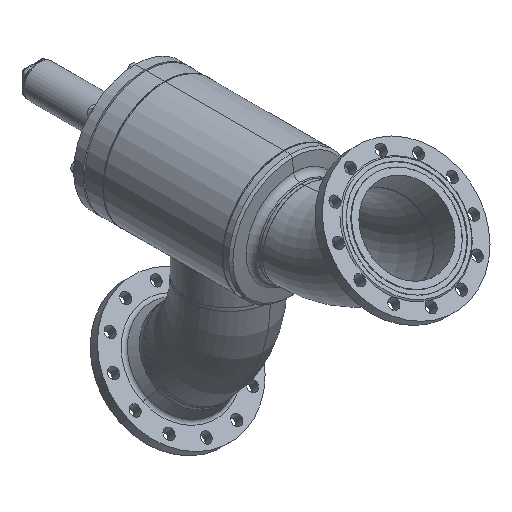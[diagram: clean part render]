
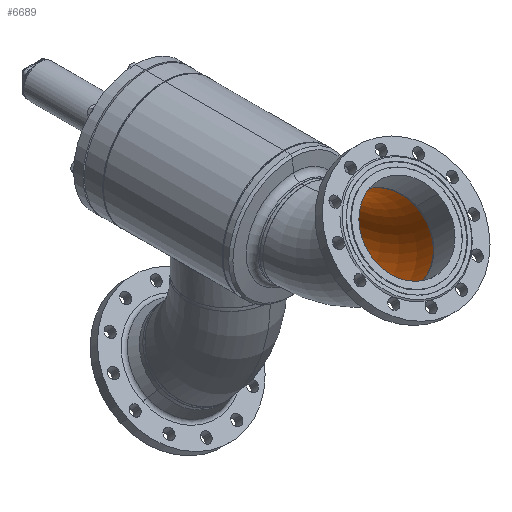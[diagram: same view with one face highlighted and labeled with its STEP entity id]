
A CAD part, isometric view. The second image highlights one B-rep face of the part: STEP entity #6689.
In plain terms, the highlighted toroidal (fillet/blend) face has major radius 305 mm and minor radius 103.25 mm.
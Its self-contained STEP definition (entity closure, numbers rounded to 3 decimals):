
#588 = VERTEX_POINT ( 'NONE', #59993 ) ;
#1597 = EDGE_CURVE ( 'NONE', #588, #72855, #61494, .T. ) ;
#34852 = CARTESIAN_POINT ( 'NONE',  ( 0., 103.25, 0. ) ) ;
#67848 = VERTEX_POINT ( 'NONE', #34852 ) ;
#3267 = ORIENTED_EDGE ( 'NONE', *, *, #1597, .T. ) ;
#68843 = EDGE_CURVE ( 'NONE', #72855, #67848, #36744, .T. ) ;
#36744 = CIRCLE ( 'NONE', #36745, 408.25 ) ;
#36745 = AXIS2_PLACEMENT_3D ( 'NONE', #36746, #36747, #36748 ) ;
#36746 = CARTESIAN_POINT ( 'NONE',  ( 0., -305., 0. ) ) ;
#36747 = DIRECTION ( 'NONE',  ( 0., 0., 1. ) ) ;
#36748 = DIRECTION ( 'NONE',  ( 1., 0., 0. ) ) ;
#70519 = ORIENTED_EDGE ( 'NONE', *, *, #68843, .T. ) ;
#5456 = CARTESIAN_POINT ( 'NONE',  ( 0., -103.25, 0. ) ) ;
#5603 = EDGE_LOOP ( 'NONE', ( #3267, #70519, #65507, #61232 ) ) ;
#6689 = ADVANCED_FACE ( 'NONE', ( #65266 ), #65267, .F. ) ;
#6887 = CIRCLE ( 'NONE', #6888, 103.25 ) ;
#6888 = AXIS2_PLACEMENT_3D ( 'NONE', #6889, #6890, #6891 ) ;
#6889 = CARTESIAN_POINT ( 'NONE',  ( 0., 0., 0. ) ) ;
#6890 = DIRECTION ( 'NONE',  ( 1., 0., 0. ) ) ;
#6891 = DIRECTION ( 'NONE',  ( 0., 0., -1. ) ) ;
#39668 = CARTESIAN_POINT ( 'NONE',  ( 288.676, -16.324, 0. ) ) ;
#39974 = CIRCLE ( 'NONE', #39975, 201.75 ) ;
#39975 = AXIS2_PLACEMENT_3D ( 'NONE', #39976, #39977, #39978 ) ;
#39976 = CARTESIAN_POINT ( 'NONE',  ( 0., -305., 0. ) ) ;
#39977 = DIRECTION ( 'NONE',  ( 0., 0., 1. ) ) ;
#39978 = DIRECTION ( 'NONE',  ( 1., 0., 0. ) ) ;
#72855 = VERTEX_POINT ( 'NONE', #39668 ) ;
#24369 = EDGE_CURVE ( 'NONE', #588, #62827, #39974, .T. ) ;
#59993 = CARTESIAN_POINT ( 'NONE',  ( 142.659, -162.341, 0. ) ) ;
#61232 = ORIENTED_EDGE ( 'NONE', *, *, #24369, .F. ) ;
#61494 = CIRCLE ( 'NONE', #61495, 103.25 ) ;
#61495 = AXIS2_PLACEMENT_3D ( 'NONE', #61496, #61497, #61498 ) ;
#61496 = CARTESIAN_POINT ( 'NONE',  ( 215.668, -89.332, 0. ) ) ;
#61497 = DIRECTION ( 'NONE',  ( 0.707, -0.707, 0. ) ) ;
#61498 = DIRECTION ( 'NONE',  ( 0., 0., -1. ) ) ;
#62827 = VERTEX_POINT ( 'NONE', #5456 ) ;
#63829 = EDGE_CURVE ( 'NONE', #62827, #67848, #6887, .T. ) ;
#65266 = FACE_OUTER_BOUND ( 'NONE', #5603, .T. ) ;
#65267 = TOROIDAL_SURFACE ( 'NONE', #65268, 305., 103.25 ) ;
#65268 = AXIS2_PLACEMENT_3D ( 'NONE', #65269, #65270, #65338 ) ;
#65269 = CARTESIAN_POINT ( 'NONE',  ( 0., -305., 0. ) ) ;
#65270 = DIRECTION ( 'NONE',  ( 0., 0., 1. ) ) ;
#65338 = DIRECTION ( 'NONE',  ( 1., 0., 0. ) ) ;
#65507 = ORIENTED_EDGE ( 'NONE', *, *, #63829, .F. ) ;
